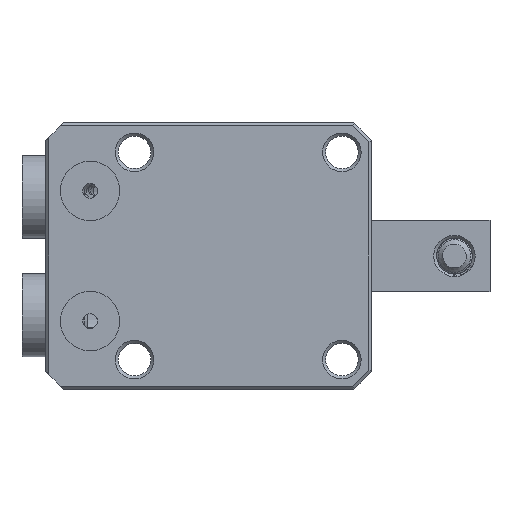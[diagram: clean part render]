
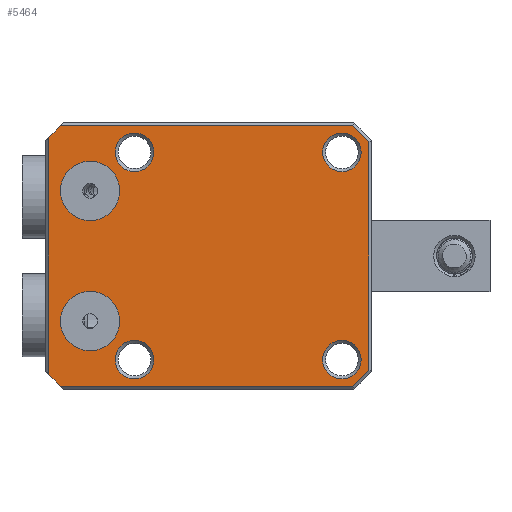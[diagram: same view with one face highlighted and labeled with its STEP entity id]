
A CAD part, front view. The second image highlights one B-rep face of the part: STEP entity #5464.
In plain terms, the highlighted planar face has unit normal (0, -1, 0).
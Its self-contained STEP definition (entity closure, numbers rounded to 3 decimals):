
#290=FACE_BOUND('',#886,.T.);
#291=FACE_BOUND('',#887,.T.);
#292=FACE_BOUND('',#888,.T.);
#293=FACE_BOUND('',#889,.T.);
#294=FACE_BOUND('',#890,.T.);
#295=FACE_BOUND('',#891,.T.);
#360=PLANE('',#6062);
#550=FACE_OUTER_BOUND('',#885,.T.);
#885=EDGE_LOOP('',(#4021,#4022,#4023,#4024,#4025,#4026,#4027,#4028));
#886=EDGE_LOOP('',(#4029));
#887=EDGE_LOOP('',(#4030));
#888=EDGE_LOOP('',(#4031));
#889=EDGE_LOOP('',(#4032));
#890=EDGE_LOOP('',(#4033));
#891=EDGE_LOOP('',(#4034));
#1261=LINE('',#8958,#1670);
#1284=LINE('',#9010,#1693);
#1293=LINE('',#9027,#1702);
#1311=LINE('',#9065,#1720);
#1312=LINE('',#9067,#1721);
#1313=LINE('',#9069,#1722);
#1314=LINE('',#9070,#1723);
#1315=LINE('',#9071,#1724);
#1670=VECTOR('',#6906,1000.);
#1693=VECTOR('',#6951,1000.);
#1702=VECTOR('',#6968,1000.);
#1720=VECTOR('',#7000,1000.);
#1721=VECTOR('',#7001,1000.);
#1722=VECTOR('',#7002,1000.);
#1723=VECTOR('',#7003,1000.);
#1724=VECTOR('',#7004,1000.);
#2044=CIRCLE('',#5979,3.25);
#2047=CIRCLE('',#5983,3.25);
#2049=CIRCLE('',#5986,3.25);
#2051=CIRCLE('',#5989,3.25);
#2054=CIRCLE('',#5993,5.);
#2056=CIRCLE('',#5996,5.);
#2365=VERTEX_POINT('',#8612);
#2368=VERTEX_POINT('',#8620);
#2369=VERTEX_POINT('',#8625);
#2372=VERTEX_POINT('',#8632);
#2374=VERTEX_POINT('',#8639);
#2376=VERTEX_POINT('',#8645);
#2432=VERTEX_POINT('',#8955);
#2433=VERTEX_POINT('',#8957);
#2450=VERTEX_POINT('',#9007);
#2451=VERTEX_POINT('',#9009);
#2455=VERTEX_POINT('',#9025);
#2468=VERTEX_POINT('',#9064);
#2469=VERTEX_POINT('',#9066);
#2470=VERTEX_POINT('',#9068);
#2907=EDGE_CURVE('',#2365,#2365,#2044,.T.);
#2911=EDGE_CURVE('',#2368,#2368,#2047,.T.);
#2914=EDGE_CURVE('',#2369,#2369,#2049,.T.);
#2917=EDGE_CURVE('',#2372,#2372,#2051,.T.);
#2921=EDGE_CURVE('',#2374,#2374,#2054,.T.);
#2924=EDGE_CURVE('',#2376,#2376,#2056,.T.);
#3007=EDGE_CURVE('',#2432,#2433,#1261,.T.);
#3033=EDGE_CURVE('',#2451,#2450,#1284,.T.);
#3042=EDGE_CURVE('',#2455,#2432,#1293,.T.);
#3061=EDGE_CURVE('',#2455,#2468,#1311,.T.);
#3062=EDGE_CURVE('',#2468,#2469,#1312,.T.);
#3063=EDGE_CURVE('',#2469,#2470,#1313,.T.);
#3064=EDGE_CURVE('',#2470,#2451,#1314,.T.);
#3065=EDGE_CURVE('',#2450,#2433,#1315,.T.);
#4021=ORIENTED_EDGE('',*,*,#3042,.F.);
#4022=ORIENTED_EDGE('',*,*,#3061,.T.);
#4023=ORIENTED_EDGE('',*,*,#3062,.T.);
#4024=ORIENTED_EDGE('',*,*,#3063,.T.);
#4025=ORIENTED_EDGE('',*,*,#3064,.T.);
#4026=ORIENTED_EDGE('',*,*,#3033,.T.);
#4027=ORIENTED_EDGE('',*,*,#3065,.T.);
#4028=ORIENTED_EDGE('',*,*,#3007,.F.);
#4029=ORIENTED_EDGE('',*,*,#2907,.T.);
#4030=ORIENTED_EDGE('',*,*,#2911,.T.);
#4031=ORIENTED_EDGE('',*,*,#2914,.T.);
#4032=ORIENTED_EDGE('',*,*,#2917,.T.);
#4033=ORIENTED_EDGE('',*,*,#2921,.T.);
#4034=ORIENTED_EDGE('',*,*,#2924,.T.);
#5464=ADVANCED_FACE('',(#550,#290,#291,#292,#293,#294,#295),#360,.T.);
#5979=AXIS2_PLACEMENT_3D('',#8614,#6724,#6725);
#5983=AXIS2_PLACEMENT_3D('',#8622,#6733,#6734);
#5986=AXIS2_PLACEMENT_3D('',#8627,#6740,#6741);
#5989=AXIS2_PLACEMENT_3D('',#8634,#6747,#6748);
#5993=AXIS2_PLACEMENT_3D('',#8641,#6756,#6757);
#5996=AXIS2_PLACEMENT_3D('',#8647,#6763,#6764);
#6062=AXIS2_PLACEMENT_3D('',#9063,#6998,#6999);
#6724=DIRECTION('center_axis',(0.,1.,0.));
#6725=DIRECTION('ref_axis',(0.,0.,-1.));
#6733=DIRECTION('center_axis',(0.,1.,0.));
#6734=DIRECTION('ref_axis',(0.,0.,-1.));
#6740=DIRECTION('center_axis',(0.,1.,0.));
#6741=DIRECTION('ref_axis',(0.,0.,-1.));
#6747=DIRECTION('center_axis',(0.,1.,0.));
#6748=DIRECTION('ref_axis',(0.,0.,-1.));
#6756=DIRECTION('center_axis',(0.,1.,0.));
#6757=DIRECTION('ref_axis',(0.,0.,-1.));
#6763=DIRECTION('center_axis',(0.,1.,0.));
#6764=DIRECTION('ref_axis',(0.,0.,-1.));
#6906=DIRECTION('',(-0.707,0.,0.707));
#6951=DIRECTION('',(-0.707,0.,-0.707));
#6968=DIRECTION('',(-1.,0.,0.));
#6998=DIRECTION('center_axis',(0.,-1.,0.));
#6999=DIRECTION('ref_axis',(0.,0.,-1.));
#7000=DIRECTION('',(0.707,0.,0.707));
#7001=DIRECTION('',(0.,0.,1.));
#7002=DIRECTION('',(-0.707,0.,0.707));
#7003=DIRECTION('',(-1.,0.,0.));
#7004=DIRECTION('',(0.,0.,-1.));
#8612=CARTESIAN_POINT('',(480.63,64.989,20.75));
#8614=CARTESIAN_POINT('Origin',(480.63,64.989,17.5));
#8620=CARTESIAN_POINT('',(445.63,64.989,20.75));
#8622=CARTESIAN_POINT('Origin',(445.63,64.989,17.5));
#8625=CARTESIAN_POINT('',(445.63,64.989,-14.25));
#8627=CARTESIAN_POINT('Origin',(445.63,64.989,-17.5));
#8632=CARTESIAN_POINT('',(480.63,64.989,-14.25));
#8634=CARTESIAN_POINT('Origin',(480.63,64.989,-17.5));
#8639=CARTESIAN_POINT('',(438.13,64.989,-6.));
#8641=CARTESIAN_POINT('Origin',(438.13,64.989,-11.));
#8645=CARTESIAN_POINT('',(438.13,64.989,16.));
#8647=CARTESIAN_POINT('Origin',(438.13,64.989,11.));
#8955=CARTESIAN_POINT('',(433.13,64.989,-22.));
#8957=CARTESIAN_POINT('',(431.13,64.989,-20.));
#8958=CARTESIAN_POINT('',(432.13,64.989,-21.));
#9007=CARTESIAN_POINT('',(431.13,64.989,20.));
#9009=CARTESIAN_POINT('',(433.13,64.989,22.));
#9010=CARTESIAN_POINT('',(432.13,64.989,21.));
#9025=CARTESIAN_POINT('',(482.423,64.989,-22.));
#9027=CARTESIAN_POINT('',(457.88,64.989,-22.));
#9063=CARTESIAN_POINT('Origin',(431.13,64.989,22.));
#9064=CARTESIAN_POINT('',(485.13,64.989,-19.293));
#9065=CARTESIAN_POINT('',(482.423,64.989,-22.));
#9066=CARTESIAN_POINT('',(485.13,64.989,19.293));
#9067=CARTESIAN_POINT('',(485.13,64.989,0.));
#9068=CARTESIAN_POINT('',(482.423,64.989,22.));
#9069=CARTESIAN_POINT('',(485.13,64.989,19.293));
#9070=CARTESIAN_POINT('',(458.13,64.989,22.));
#9071=CARTESIAN_POINT('',(431.13,64.989,0.));
